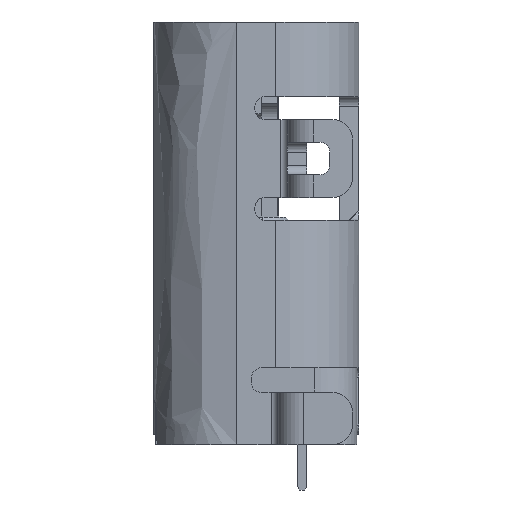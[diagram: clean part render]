
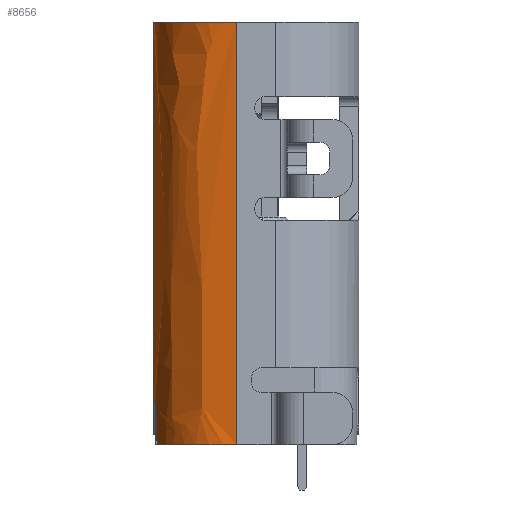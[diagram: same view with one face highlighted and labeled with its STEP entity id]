
A CAD part, left-side view. The second image highlights one B-rep face of the part: STEP entity #8656.
In plain terms, the highlighted free-form (B-spline) face has degree [1, 3] with [2, 4] control points.
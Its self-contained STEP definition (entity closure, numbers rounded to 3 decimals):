
#202 = VERTEX_POINT ( 'NONE', #6377 ) ;
#762 = CARTESIAN_POINT ( 'NONE',  ( -4.078, 1.479, 4.148 ) ) ;
#944 = CARTESIAN_POINT ( 'NONE',  ( -4.008, 1.5, 4.282 ) ) ;
#1174 = CARTESIAN_POINT ( 'NONE',  ( -4.958, 0.263, 4.132 ) ) ;
#1335 = CARTESIAN_POINT ( 'NONE',  ( -3.993, 1.504, 4.73 ) ) ;
#1346 = ORIENTED_EDGE ( 'NONE', *, *, #16317, .T. ) ;
#1521 = CARTESIAN_POINT ( 'NONE',  ( -4.428, 1.543, 10.632 ) ) ;
#2409 = DIRECTION ( 'NONE',  ( 0., 0., 1. ) ) ;
#3580 = EDGE_LOOP ( 'NONE', ( #17131, #34865, #1346, #13119, #32742, #22062, #17765, #29012 ) ) ;
#3953 = VERTEX_POINT ( 'NONE', #10010 ) ;
#4459 = CARTESIAN_POINT ( 'NONE',  ( -4.008, 1.5, 4.653 ) ) ;
#4571 = CARTESIAN_POINT ( 'NONE',  ( -4.958, 0.263, 4.133 ) ) ;
#6345 = EDGE_CURVE ( 'NONE', #3953, #21298, #7725, .T. ) ;
#6377 = CARTESIAN_POINT ( 'NONE',  ( -4.008, 1.5, 4.282 ) ) ;
#6677 = CARTESIAN_POINT ( 'NONE',  ( -3.678, 1.543, 10.633 ) ) ;
#6845 = CARTESIAN_POINT ( 'NONE',  ( -4.008, 1.5, 4.653 ) ) ;
#7659 = EDGE_CURVE ( 'NONE', #21298, #21317, #33913, .T. ) ;
#7725 = CIRCLE ( 'NONE', #24251, 1.28 ) ;
#8578 = LINE ( 'NONE', #32656, #27823 ) ;
#8656 = ADVANCED_FACE ( 'NONE', ( #20418 ), #34455, .F. ) ;
#9310 = DIRECTION ( 'NONE',  ( -0.369, 0.929, 0. ) ) ;
#9530 = CARTESIAN_POINT ( 'NONE',  ( -3.899, 1.525, 4.802 ) ) ;
#10010 = CARTESIAN_POINT ( 'NONE',  ( -3.678, 1.543, 4.803 ) ) ;
#10476 = EDGE_CURVE ( 'NONE', #21317, #202, #18536, .T. ) ;
#11282 = CARTESIAN_POINT ( 'NONE',  ( -4.151, 1.452, 4.133 ) ) ;
#11454 = DIRECTION ( 'NONE',  ( 0., 0., -1. ) ) ;
#11830 = DIRECTION ( 'NONE',  ( 0., 0., 1. ) ) ;
#12390 = CARTESIAN_POINT ( 'NONE',  ( -3.938, 1.517, 4.787 ) ) ;
#13119 = ORIENTED_EDGE ( 'NONE', *, *, #29032, .F. ) ;
#13821 = EDGE_CURVE ( 'NONE', #34353, #24582, #31609, .T. ) ;
#14142 = CARTESIAN_POINT ( 'NONE',  ( -4.008, 1.5, 4.243 ) ) ;
#14727 = CARTESIAN_POINT ( 'NONE',  ( -3.678, 1.543, 4.132 ) ) ;
#14746 = VECTOR ( 'NONE', #15143, 1000. ) ;
#14779 = VERTEX_POINT ( 'NONE', #4571 ) ;
#15143 = DIRECTION ( 'NONE',  ( 0., 0., -1. ) ) ;
#16317 = EDGE_CURVE ( 'NONE', #18045, #14779, #27624, .T. ) ;
#17131 = ORIENTED_EDGE ( 'NONE', *, *, #10476, .T. ) ;
#17195 = CARTESIAN_POINT ( 'NONE',  ( -3.858, 1.53, 4.803 ) ) ;
#17328 = CARTESIAN_POINT ( 'NONE',  ( -3.678, 0.263, 10.633 ) ) ;
#17563 = CARTESIAN_POINT ( 'NONE',  ( -4.958, 1.013, 10.632 ) ) ;
#17765 = ORIENTED_EDGE ( 'NONE', *, *, #6345, .T. ) ;
#17902 = CARTESIAN_POINT ( 'NONE',  ( -4.428, 1.543, 4.132 ) ) ;
#18045 = VERTEX_POINT ( 'NONE', #24692 ) ;
#18102 = CARTESIAN_POINT ( 'NONE',  ( -4.008, 1.5, 4.653 ) ) ;
#18472 = EDGE_CURVE ( 'NONE', #202, #18045, #28307, .T. ) ;
#18536 = LINE ( 'NONE', #4459, #25800 ) ;
#19169 = CARTESIAN_POINT ( 'NONE',  ( -3.678, 1.543, 10.633 ) ) ;
#20418 = FACE_OUTER_BOUND ( 'NONE', #3580, .T. ) ;
#21298 = VERTEX_POINT ( 'NONE', #33991 ) ;
#21317 = VERTEX_POINT ( 'NONE', #18102 ) ;
#22062 = ORIENTED_EDGE ( 'NONE', *, *, #32544, .T. ) ;
#22377 = CARTESIAN_POINT ( 'NONE',  ( -4.958, 0.263, 10.633 ) ) ;
#22697 = CARTESIAN_POINT ( 'NONE',  ( -4.024, 1.496, 4.205 ) ) ;
#23094 = CARTESIAN_POINT ( 'NONE',  ( -4.958, 0.263, 10.633 ) ) ;
#23165 = CARTESIAN_POINT ( 'NONE',  ( -3.678, 1.543, 10.633 ) ) ;
#24251 = AXIS2_PLACEMENT_3D ( 'NONE', #32019, #2409, #26306 ) ;
#24582 = VERTEX_POINT ( 'NONE', #19169 ) ;
#24692 = CARTESIAN_POINT ( 'NONE',  ( -4.151, 1.452, 4.133 ) ) ;
#25175 = DIRECTION ( 'NONE',  ( -1., 0., 0. ) ) ;
#25406 = CARTESIAN_POINT ( 'NONE',  ( -4.008, 1.5, 4.692 ) ) ;
#25800 = VECTOR ( 'NONE', #26375, 1000. ) ;
#26306 = DIRECTION ( 'NONE',  ( 0., 1., 0. ) ) ;
#26375 = DIRECTION ( 'NONE',  ( 0., 0., -1. ) ) ;
#27304 = DIRECTION ( 'NONE',  ( 0., 0., -1. ) ) ;
#27624 = CIRCLE ( 'NONE', #33902, 1.28 ) ;
#27823 = VECTOR ( 'NONE', #27304, 1000. ) ;
#28212 = CARTESIAN_POINT ( 'NONE',  ( -3.678, 0.263, 4.133 ) ) ;
#28307 = B_SPLINE_CURVE_WITH_KNOTS ( 'NONE', 3,
 ( #944, #14142, #22697, #762, #33571, #11282 ),
 .UNSPECIFIED., .F., .F.,
 ( 4, 2, 4 ),
 ( 0., 0.5, 1. ),
 .UNSPECIFIED. ) ;
#28673 = LINE ( 'NONE', #23165, #14746 ) ;
#28789 = CARTESIAN_POINT ( 'NONE',  ( -4.958, 1.013, 4.132 ) ) ;
#29012 = ORIENTED_EDGE ( 'NONE', *, *, #7659, .T. ) ;
#29032 = EDGE_CURVE ( 'NONE', #34353, #14779, #8578, .T. ) ;
#31609 = CIRCLE ( 'NONE', #34454, 1.28 ) ;
#32019 = CARTESIAN_POINT ( 'NONE',  ( -3.678, 0.263, 4.803 ) ) ;
#32544 = EDGE_CURVE ( 'NONE', #24582, #3953, #28673, .T. ) ;
#32656 = CARTESIAN_POINT ( 'NONE',  ( -4.958, 0.263, 10.633 ) ) ;
#32742 = ORIENTED_EDGE ( 'NONE', *, *, #13821, .T. ) ;
#33571 = CARTESIAN_POINT ( 'NONE',  ( -4.114, 1.467, 4.133 ) ) ;
#33902 = AXIS2_PLACEMENT_3D ( 'NONE', #28212, #11830, #9310 ) ;
#33913 = B_SPLINE_CURVE_WITH_KNOTS ( 'NONE', 3,
 ( #17195, #9530, #12390, #1335, #25406, #6845 ),
 .UNSPECIFIED., .F., .F.,
 ( 4, 2, 4 ),
 ( 0., 0.5, 1. ),
 .UNSPECIFIED. ) ;
#33991 = CARTESIAN_POINT ( 'NONE',  ( -3.858, 1.53, 4.803 ) ) ;
#34353 = VERTEX_POINT ( 'NONE', #22377 ) ;
#34454 = AXIS2_PLACEMENT_3D ( 'NONE', #17328, #11454, #25175 ) ;
#34455 =( BOUNDED_SURFACE ( )  B_SPLINE_SURFACE ( 1, 3, ( 
 ( #14727, #17902, #28789, #1174 ),
 ( #6677, #1521, #17563, #23094 ) ),
 .UNSPECIFIED., .F., .F., .F. ) 
 B_SPLINE_SURFACE_WITH_KNOTS ( ( 2, 2 ),
 ( 4, 4 ),
 ( 0.019, 0.981 ),
 ( 0., 1. ),
 .UNSPECIFIED. ) 
 GEOMETRIC_REPRESENTATION_ITEM ( )  RATIONAL_B_SPLINE_SURFACE ( (
 ( 1., 0.805, 0.805, 1.),
 ( 1., 0.805, 0.805, 1.) ) ) 
 REPRESENTATION_ITEM ( '' )  SURFACE ( )  );
#34865 = ORIENTED_EDGE ( 'NONE', *, *, #18472, .T. ) ;
